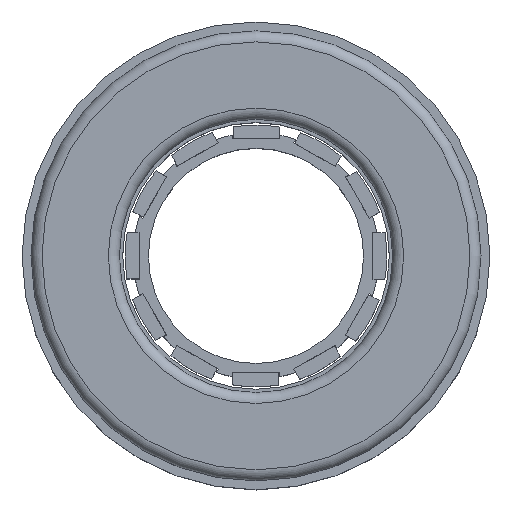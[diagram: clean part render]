
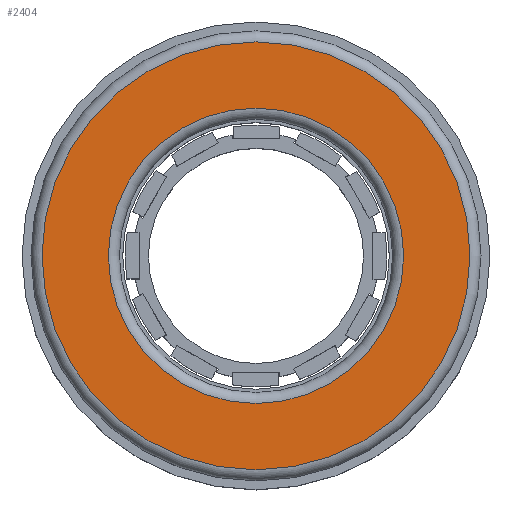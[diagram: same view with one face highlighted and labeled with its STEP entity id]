
A CAD part, top view. The second image highlights one B-rep face of the part: STEP entity #2404.
In plain terms, the highlighted planar face has unit normal (0, 0, 1).
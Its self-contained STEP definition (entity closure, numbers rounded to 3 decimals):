
#111=FACE_BOUND($,#395,.T.);
#136=PLANE($,#2591);
#249=FACE_OUTER_BOUND($,#394,.T.);
#394=EDGE_LOOP($,(#1661));
#395=EDGE_LOOP($,(#1662));
#558=CIRCLE($,#2590,40.085);
#559=CIRCLE($,#2592,58.085);
#1112=VERTEX_POINT($,#3600);
#1113=VERTEX_POINT($,#3603);
#1332=EDGE_CURVE($,#1112,#1112,#558,.T.);
#1333=EDGE_CURVE($,#1113,#1113,#559,.T.);
#1661=ORIENTED_EDGE($,*,*,#1333,.F.);
#1662=ORIENTED_EDGE($,*,*,#1332,.T.);
#2404=ADVANCED_FACE($,(#249,#111),#136,.T.);
#2590=AXIS2_PLACEMENT_3D($,#3601,#2867,#2868);
#2591=AXIS2_PLACEMENT_3D($,#3602,#2869,#2870);
#2592=AXIS2_PLACEMENT_3D($,#3604,#2871,#2872);
#2867=DIRECTION('center_axis',(0.,0.,-1.));
#2868=DIRECTION('ref_axis',(0.,1.,0.));
#2869=DIRECTION('center_axis',(0.,0.,1.));
#2870=DIRECTION('ref_axis',(1.,0.,0.));
#2871=DIRECTION('center_axis',(0.,0.,-1.));
#2872=DIRECTION('ref_axis',(0.,1.,0.));
#3600=CARTESIAN_POINT('',(0.,40.085,25.4));
#3601=CARTESIAN_POINT('Origin',(0.,0.,25.4));
#3602=CARTESIAN_POINT('Origin',(0.,49.085,25.4));
#3603=CARTESIAN_POINT('',(0.,58.085,25.4));
#3604=CARTESIAN_POINT('Origin',(0.,0.,25.4));
